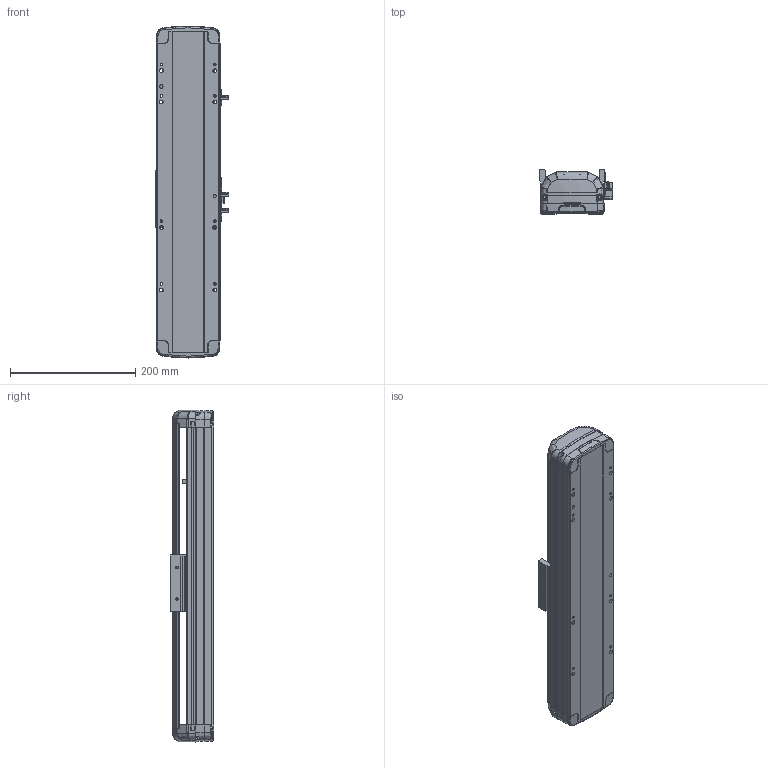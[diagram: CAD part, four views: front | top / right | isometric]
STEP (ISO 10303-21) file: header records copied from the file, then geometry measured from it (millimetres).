
FILE_DESCRIPTION (( 'STEP AP214' ), '1' );
FILE_NAME ('RTH10-XX-150-B-M10-C4.STEP', '2025-10-25T05:07:38', ( 'Microsoft' ), ( 'Microsoft' ), 'SwSTEP 2.0', 'SolidWorks 2018', '' );
FILE_SCHEMA (( 'AUTOMOTIVE_DESIGN' ));
Length unit declared in the file: millimetre
Products named in the file (7): N_RTH12-GY-001P^RTH10-XX-XX-B-M10-C4; N_RTH12-GY-004-賑釱^RTH10-XX-XX-B-M10-C4; N_RTH13-L-012覜茼え俋离^RTH10-XX-XX-B-M10-C4; RTH10-XX-150-B-M10-C4; N_RTH12-B-011P-臏倰第菁釱^RTH10-XX-XX-B-M10-C4; N_OMRON EE-SX672 传感器^RTH10-XX-XX-B-M10-C4; N_RTH12-B-007P-奻裔^RTH10-XX-XX-B-M10-C4
Assembly tree (9 placements, depth 2):
  RTH10-XX-150-B-M10-C4
    N_RTH12-B-011P-臏倰第菁釱^RTH10-XX-XX-B-M10-C4
    N_RTH13-L-012覜茼え俋离^RTH10-XX-XX-B-M10-C4
    N_OMRON EE-SX672 传感器^RTH10-XX-XX-B-M10-C4  x3
    N_RTH12-B-007P-奻裔^RTH10-XX-XX-B-M10-C4
    N_RTH12-GY-004-賑釱^RTH10-XX-XX-B-M10-C4
    N_RTH12-GY-001P^RTH10-XX-XX-B-M10-C4  x2
Bounding box: 116.5 x 70 x 529.61 mm (x, y, z)
Volume: 2034395.3 mm3; surface area: 365415.9 mm2
Topology: 7 solids, 11 shells, 2160 faces, 6034 edges, 3948 vertices
Faces by surface type: plane 1045, bspline 712, cylinder 383, cone 16, torus 4
Entity records: 47882 total; most frequent: CARTESIAN_POINT 21138, ORIENTED_EDGE 6196, DIRECTION 4282, EDGE_CURVE 3104, VERTEX_POINT 2035, VECTOR 1616, LINE 1616, AXIS2_PLACEMENT_3D 1333
